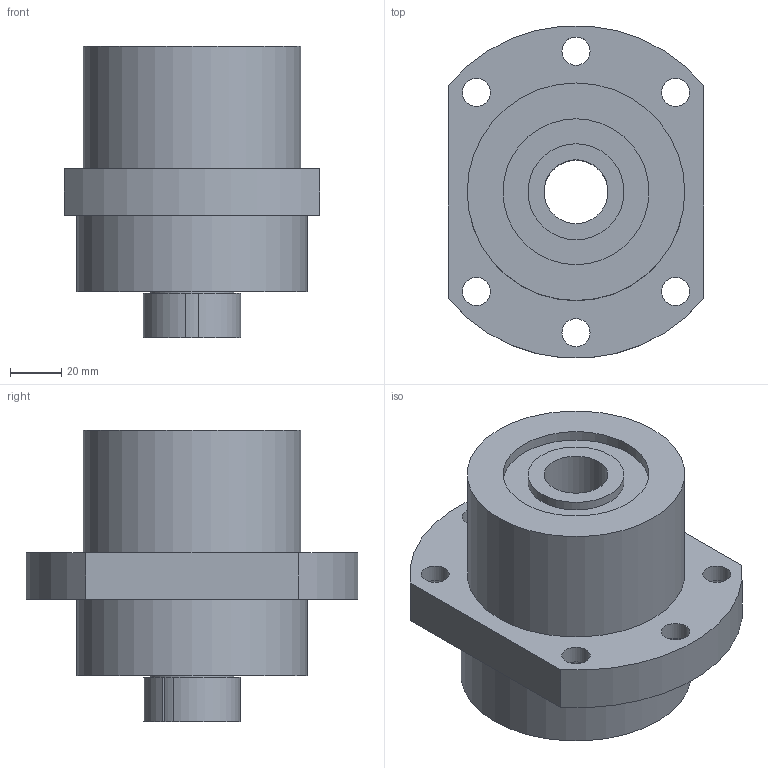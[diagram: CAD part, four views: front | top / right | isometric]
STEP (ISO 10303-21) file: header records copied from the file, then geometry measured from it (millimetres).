
FILE_DESCRIPTION(/* description */ (''),/* implementation_level */ '2;1');
FILE_NAME(/* name */ 'C:\Users\tenki620635\Desktop\官網\圖面\軸承座\3D\setp檔\WBK25 DFF.stp',/* time_stamp */ '2020-12-21T10:01:26+08:00',/* author */ ('tenki620635'),/* organization */ (''),/* preprocessor_version */ 'ST-DEVELOPER v15.2',/* originating_system */ 'Autodesk Inventor 2014',/* authorisation */ '');
FILE_SCHEMA (('AUTOMOTIVE_DESIGN { 1 0 10303 214 3 1 1 }'));
Length unit declared in the file: millimetre
Products named in the file (1): WBK25 DFF-Atype
Bounding box: 100 x 129.59 x 114 mm (x, y, z)
Volume: 603574.3 mm3; surface area: 68594.9 mm2
Topology: 1 solids, 1 shells, 52 faces, 108 edges, 72 vertices
Faces by surface type: cylinder 28, plane 24
Full cylindrical faces by diameter (mm): 11 x6, 17.5 x6, 25 x1, 33 x1, 37.5 x2, 57 x2, 85 x1, 90 x1
Entity records: 1357 total; most frequent: DIRECTION 250, CARTESIAN_POINT 213, ORIENTED_EDGE 176, AXIS2_PLACEMENT_3D 109, EDGE_LOOP 100, EDGE_CURVE 88, VERTEX_POINT 72, FACE_BOUND 56
